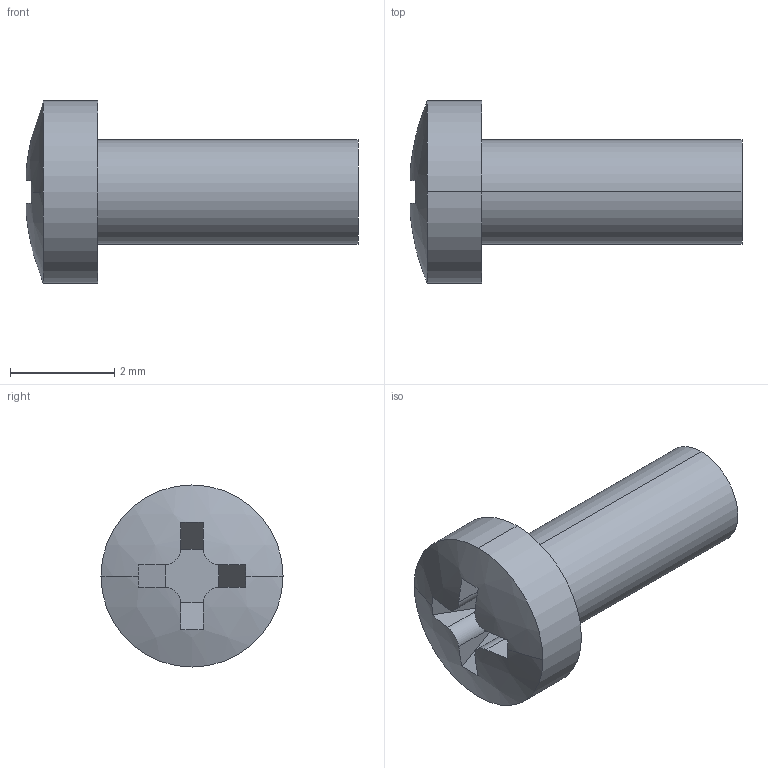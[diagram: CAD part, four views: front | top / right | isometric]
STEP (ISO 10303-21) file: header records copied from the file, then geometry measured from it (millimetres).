
FILE_DESCRIPTION(('Open CASCADE Model'),'2;1');
FILE_NAME('gb-small-pan-head-screw-m2-x-5.step','2026-11-14T14:31:49',( 'Author'),('Open CASCADE'),'Open CASCADE STEP processor 8.0', 'Open CASCADE 8.0','Unknown');
FILE_SCHEMA(('AP242_MANAGED_MODEL_BASED_3D_ENGINEERING_MIM_LF {1 0 10303 442 1 1 4 }' ));
Length unit declared in the file: millimetre
Products named in the file (1): GB Small Pan Head Screw M2 x 5
Bounding box: 6.38 x 3.5 x 3.5 mm (x, y, z)
Volume: 26.3 mm3; surface area: 67.3 mm2
Topology: 1 solids, 1 shells, 25 faces, 66 edges, 44 vertices
Faces by surface type: plane 15, cylinder 8, sphere 2
Entity records: 2200 total; most frequent: CARTESIAN_POINT 980, DIRECTION 212, ORIENTED_EDGE 132, PCURVE 132, DEFINITIONAL_REPRESENTATION 132, LINE 94, VECTOR 94, EDGE_CURVE 66
